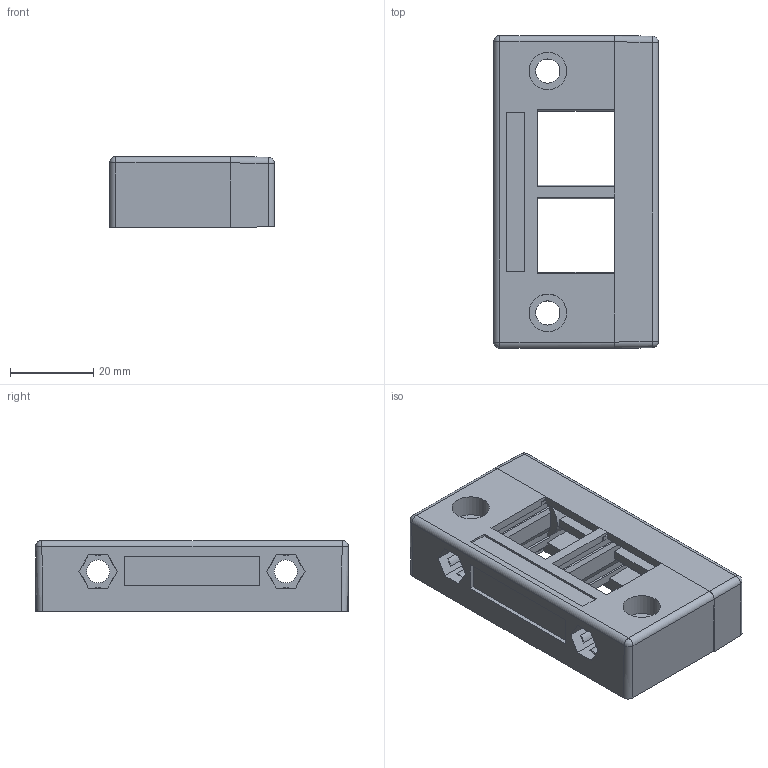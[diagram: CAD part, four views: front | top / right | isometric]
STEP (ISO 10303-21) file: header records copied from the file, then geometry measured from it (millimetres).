
FILE_DESCRIPTION(/* description */ (''),/* implementation_level */ '2;1');
FILE_NAME(/* name */ 'KEL E2(wulogo).stp',/* time_stamp */ '2019-06-04T12:48:57+08:00',/* author */ (''),/* organization */ (''),/* preprocessor_version */ 'ST-DEVELOPER v16.7',/* originating_system */ 'SIEMENS PLM Software NX 12.0',/* authorisation */ '');
FILE_SCHEMA (('AUTOMOTIVE_DESIGN { 1 0 10303 214 3 1 1 1 }'));
Length unit declared in the file: millimetre
Products named in the file (1): 91473BA41AC3jues
Bounding box: 39.5 x 75 x 17 mm (x, y, z)
Volume: 26705.8 mm3; surface area: 18727.3 mm2
Topology: 1 solids, 6 shells, 392 faces, 1136 edges, 759 vertices
Faces by surface type: plane 237, cylinder 92, cone 26, bspline 16, sphere 12, torus 9
Full cylindrical faces by diameter (mm): 5.5 x2, 5.8 x2, 9 x4
Entity records: 13853 total; most frequent: CARTESIAN_POINT 3783, ORIENTED_EDGE 2228, DIRECTION 1917, EDGE_CURVE 1114, VERTEX_POINT 752, AXIS2_PLACEMENT_3D 650, LINE 617, VECTOR 617
